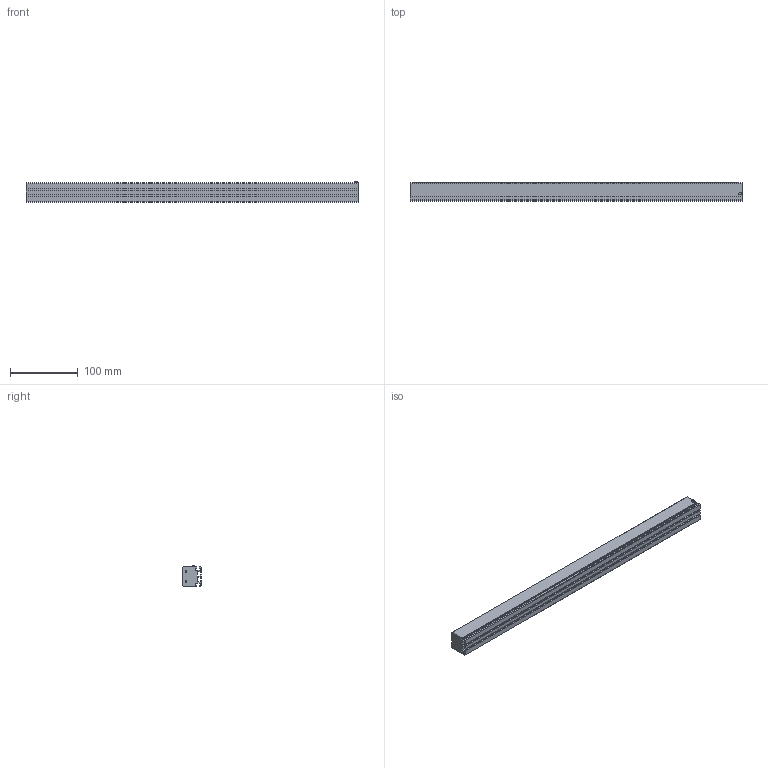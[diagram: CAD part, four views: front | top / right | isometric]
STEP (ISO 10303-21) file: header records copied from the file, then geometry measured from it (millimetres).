
FILE_DESCRIPTION (( 'STEP AP203' ), '1' );
FILE_NAME ('LRD-B4-490.STEP', '2022-08-22T06:55:04', ( 'TNT' ), ( '' ), 'SwSTEP 2.0', 'SolidWorks 2018', '' );
FILE_SCHEMA (( 'CONFIG_CONTROL_DESIGN' ));
Length unit declared in the file: millimetre
Products named in the file (1): LRD-B4-490
Bounding box: 490 x 27.7 x 30.6 mm (x, y, z)
Volume: 321065 mm3; surface area: 89466.2 mm2
Topology: 1 solids, 1 shells, 66 faces, 178 edges, 112 vertices
Faces by surface type: plane 48, cylinder 10, cone 8
Entity records: 2059 total; most frequent: CARTESIAN_POINT 349, ORIENTED_EDGE 340, DIRECTION 324, EDGE_CURVE 170, VECTOR 150, LINE 150, VERTEX_POINT 112, AXIS2_PLACEMENT_3D 87
